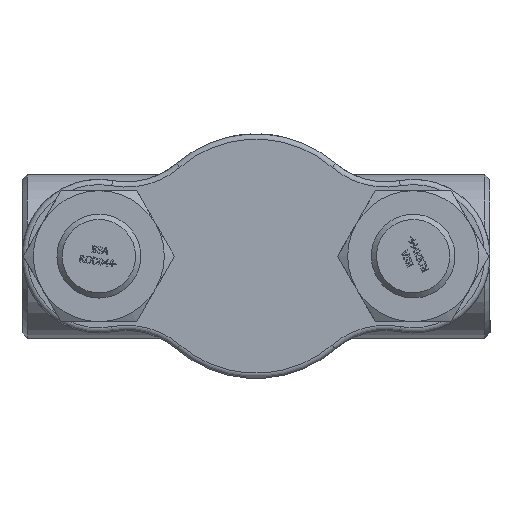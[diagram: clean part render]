
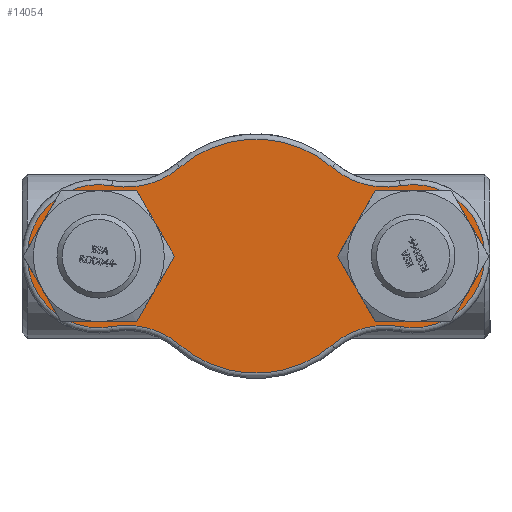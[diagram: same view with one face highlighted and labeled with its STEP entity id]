
A CAD part, front view. The second image highlights one B-rep face of the part: STEP entity #14054.
In plain terms, the highlighted planar face has unit normal (0, -1, 0) as drawn and (0, 0, -1) by its records, which use the part's own axes.
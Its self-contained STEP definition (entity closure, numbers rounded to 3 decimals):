
#3670=PLANE('',#14967);
#4125=FACE_BOUND('',#5048,.T.);
#4126=FACE_BOUND('',#5049,.T.);
#4223=FACE_OUTER_BOUND('',#5047,.T.);
#5047=EDGE_LOOP('',(#9737,#9738,#9739,#9740,#9741,#9742,#9743,#9744));
#5048=EDGE_LOOP('',(#9745));
#5049=EDGE_LOOP('',(#9746));
#5967=CIRCLE('',#14966,28.);
#5968=CIRCLE('',#14968,41.);
#5969=CIRCLE('',#14969,47.);
#5970=CIRCLE('',#14970,67.);
#5971=CIRCLE('',#14971,47.);
#5972=CIRCLE('',#14972,41.);
#5973=CIRCLE('',#14973,47.);
#5974=CIRCLE('',#14974,67.);
#5975=CIRCLE('',#14975,47.);
#5976=CIRCLE('',#14976,28.);
#6165=VERTEX_POINT('',#18660);
#6166=VERTEX_POINT('',#18663);
#6167=VERTEX_POINT('',#18664);
#6168=VERTEX_POINT('',#18666);
#6169=VERTEX_POINT('',#18668);
#6170=VERTEX_POINT('',#18670);
#6171=VERTEX_POINT('',#18672);
#6172=VERTEX_POINT('',#18674);
#6173=VERTEX_POINT('',#18676);
#6174=VERTEX_POINT('',#18679);
#7587=EDGE_CURVE('',#6165,#6165,#5967,.T.);
#7588=EDGE_CURVE('',#6166,#6167,#5968,.T.);
#7589=EDGE_CURVE('',#6168,#6166,#5969,.T.);
#7590=EDGE_CURVE('',#6169,#6168,#5970,.T.);
#7591=EDGE_CURVE('',#6170,#6169,#5971,.T.);
#7592=EDGE_CURVE('',#6171,#6170,#5972,.T.);
#7593=EDGE_CURVE('',#6172,#6171,#5973,.T.);
#7594=EDGE_CURVE('',#6173,#6172,#5974,.T.);
#7595=EDGE_CURVE('',#6167,#6173,#5975,.T.);
#7596=EDGE_CURVE('',#6174,#6174,#5976,.T.);
#9737=ORIENTED_EDGE('',*,*,#7588,.F.);
#9738=ORIENTED_EDGE('',*,*,#7589,.F.);
#9739=ORIENTED_EDGE('',*,*,#7590,.F.);
#9740=ORIENTED_EDGE('',*,*,#7591,.F.);
#9741=ORIENTED_EDGE('',*,*,#7592,.F.);
#9742=ORIENTED_EDGE('',*,*,#7593,.F.);
#9743=ORIENTED_EDGE('',*,*,#7594,.F.);
#9744=ORIENTED_EDGE('',*,*,#7595,.F.);
#9745=ORIENTED_EDGE('',*,*,#7596,.F.);
#9746=ORIENTED_EDGE('',*,*,#7587,.F.);
#14054=ADVANCED_FACE('',(#4223,#4125,#4126),#3670,.F.);
#14966=AXIS2_PLACEMENT_3D('',#18661,#15764,#15765);
#14967=AXIS2_PLACEMENT_3D('',#18662,#15766,#15767);
#14968=AXIS2_PLACEMENT_3D('',#18665,#15768,#15769);
#14969=AXIS2_PLACEMENT_3D('',#18667,#15770,#15771);
#14970=AXIS2_PLACEMENT_3D('',#18669,#15772,#15773);
#14971=AXIS2_PLACEMENT_3D('',#18671,#15774,#15775);
#14972=AXIS2_PLACEMENT_3D('',#18673,#15776,#15777);
#14973=AXIS2_PLACEMENT_3D('',#18675,#15778,#15779);
#14974=AXIS2_PLACEMENT_3D('',#18677,#15780,#15781);
#14975=AXIS2_PLACEMENT_3D('',#18678,#15782,#15783);
#14976=AXIS2_PLACEMENT_3D('',#18680,#15784,#15785);
#15764=DIRECTION('center_axis',(0.,0.,-1.));
#15765=DIRECTION('ref_axis',(1.,0.,0.));
#15766=DIRECTION('center_axis',(0.,0.,1.));
#15767=DIRECTION('ref_axis',(1.,0.,0.));
#15768=DIRECTION('center_axis',(0.,0.,1.));
#15769=DIRECTION('ref_axis',(-1.,0.,0.));
#15770=DIRECTION('center_axis',(0.,0.,-1.));
#15771=DIRECTION('ref_axis',(0.261,-0.965,0.));
#15772=DIRECTION('center_axis',(0.,0.,1.));
#15773=DIRECTION('ref_axis',(0.,1.,0.));
#15774=DIRECTION('center_axis',(0.,0.,-1.));
#15775=DIRECTION('ref_axis',(-0.261,-0.965,0.));
#15776=DIRECTION('center_axis',(0.,0.,1.));
#15777=DIRECTION('ref_axis',(1.,0.,0.));
#15778=DIRECTION('center_axis',(0.,0.,-1.));
#15779=DIRECTION('ref_axis',(-0.261,0.965,0.));
#15780=DIRECTION('center_axis',(0.,0.,1.));
#15781=DIRECTION('ref_axis',(0.,-1.,0.));
#15782=DIRECTION('center_axis',(0.,0.,-1.));
#15783=DIRECTION('ref_axis',(0.261,0.965,0.));
#15784=DIRECTION('center_axis',(0.,0.,-1.));
#15785=DIRECTION('ref_axis',(1.,0.,0.));
#18660=CARTESIAN_POINT('',(62.,0.,0.));
#18661=CARTESIAN_POINT('Origin',(90.,0.,0.));
#18662=CARTESIAN_POINT('Origin',(0.,0.,0.));
#18663=CARTESIAN_POINT('',(-82.628,40.332,0.));
#18664=CARTESIAN_POINT('',(-82.628,-40.332,0.));
#18665=CARTESIAN_POINT('Origin',(-90.,0.,0.));
#18666=CARTESIAN_POINT('',(-43.596,50.876,0.));
#18667=CARTESIAN_POINT('Origin',(-74.178,86.566,0.));
#18668=CARTESIAN_POINT('',(43.596,50.876,0.));
#18669=CARTESIAN_POINT('Origin',(0.,0.,0.));
#18670=CARTESIAN_POINT('',(82.628,40.332,0.));
#18671=CARTESIAN_POINT('Origin',(74.178,86.566,0.));
#18672=CARTESIAN_POINT('',(82.628,-40.332,0.));
#18673=CARTESIAN_POINT('Origin',(90.,0.,0.));
#18674=CARTESIAN_POINT('',(43.596,-50.876,0.));
#18675=CARTESIAN_POINT('Origin',(74.178,-86.566,0.));
#18676=CARTESIAN_POINT('',(-43.596,-50.876,0.));
#18677=CARTESIAN_POINT('Origin',(0.,0.,0.));
#18678=CARTESIAN_POINT('Origin',(-74.178,-86.566,0.));
#18679=CARTESIAN_POINT('',(-118.,0.,0.));
#18680=CARTESIAN_POINT('Origin',(-90.,0.,0.));
